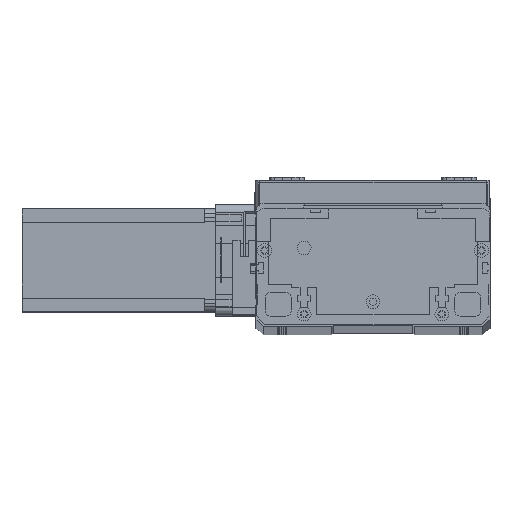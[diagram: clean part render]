
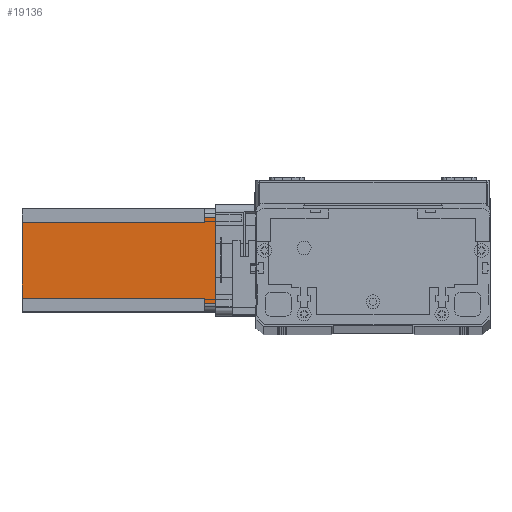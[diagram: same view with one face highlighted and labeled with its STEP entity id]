
A CAD part, top view. The second image highlights one B-rep face of the part: STEP entity #19136.
In plain terms, the highlighted planar face has unit normal (0, 0, 1) as drawn and (0, -1, 0) by its records, which use the part's own axes.
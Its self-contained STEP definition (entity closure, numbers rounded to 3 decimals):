
#304 = LINE ( 'NONE', #26506, #6076 ) ;
#580 = CARTESIAN_POINT ( 'NONE',  ( 52., 0., -6.5 ) ) ;
#823 = CARTESIAN_POINT ( 'NONE',  ( 0., 0., 0. ) ) ;
#1025 = CARTESIAN_POINT ( 'NONE',  ( 52., 0., -112.5 ) ) ;
#1103 = VERTEX_POINT ( 'NONE', #8945 ) ;
#1267 = ORIENTED_EDGE ( 'NONE', *, *, #25435, .T. ) ;
#2211 = DIRECTION ( 'NONE',  ( 0., 0., 1. ) ) ;
#2284 = VECTOR ( 'NONE', #26972, 1000. ) ;
#3008 = VERTEX_POINT ( 'NONE', #21747 ) ;
#3069 = CARTESIAN_POINT ( 'NONE',  ( 55., 0., -112.5 ) ) ;
#3160 = CARTESIAN_POINT ( 'NONE',  ( 5., 0., 0. ) ) ;
#4363 = ORIENTED_EDGE ( 'NONE', *, *, #6335, .T. ) ;
#4912 = ORIENTED_EDGE ( 'NONE', *, *, #16140, .F. ) ;
#5009 = VERTEX_POINT ( 'NONE', #15947 ) ;
#5478 = VECTOR ( 'NONE', #10977, 1000. ) ;
#5852 = VERTEX_POINT ( 'NONE', #18322 ) ;
#5902 = DIRECTION ( 'NONE',  ( 1., 0., 0. ) ) ;
#6076 = VECTOR ( 'NONE', #26585, 1000. ) ;
#6335 = EDGE_CURVE ( 'NONE', #19338, #5852, #7461, .T. ) ;
#6801 = CARTESIAN_POINT ( 'NONE',  ( 0., 0., -112.5 ) ) ;
#7461 = LINE ( 'NONE', #27161, #2284 ) ;
#7849 = EDGE_CURVE ( 'NONE', #10646, #5009, #14991, .T. ) ;
#8108 = ORIENTED_EDGE ( 'NONE', *, *, #11291, .T. ) ;
#8605 = VECTOR ( 'NONE', #2211, 1000. ) ;
#8945 = CARTESIAN_POINT ( 'NONE',  ( 8., 0., -112.5 ) ) ;
#9046 = DIRECTION ( 'NONE',  ( 0., 0., -1. ) ) ;
#10646 = VERTEX_POINT ( 'NONE', #27270 ) ;
#10748 = FACE_OUTER_BOUND ( 'NONE', #11194, .T. ) ;
#10977 = DIRECTION ( 'NONE',  ( 1., 0., 0. ) ) ;
#11194 = EDGE_LOOP ( 'NONE', ( #1267, #18642, #21336, #4363, #25024, #12173, #8108, #4912 ) ) ;
#11291 = EDGE_CURVE ( 'NONE', #1103, #13713, #25980, .T. ) ;
#11368 = DIRECTION ( 'NONE',  ( 0., 0., 1. ) ) ;
#12171 = EDGE_CURVE ( 'NONE', #1103, #3008, #25924, .T. ) ;
#12173 = ORIENTED_EDGE ( 'NONE', *, *, #12171, .F. ) ;
#12334 = LINE ( 'NONE', #15327, #15429 ) ;
#13713 = VERTEX_POINT ( 'NONE', #1025 ) ;
#13862 = VECTOR ( 'NONE', #16008, 1000. ) ;
#14991 = LINE ( 'NONE', #3069, #8605 ) ;
#15327 = CARTESIAN_POINT ( 'NONE',  ( 8., 0., -6.5 ) ) ;
#15429 = VECTOR ( 'NONE', #21295, 1000. ) ;
#15430 = PLANE ( 'NONE',  #20101 ) ;
#15947 = CARTESIAN_POINT ( 'NONE',  ( 55., 0., 0. ) ) ;
#16008 = DIRECTION ( 'NONE',  ( 1., 0., 0. ) ) ;
#16140 = EDGE_CURVE ( 'NONE', #27010, #13713, #304, .T. ) ;
#18322 = CARTESIAN_POINT ( 'NONE',  ( 5., 0., -6.5 ) ) ;
#18642 = ORIENTED_EDGE ( 'NONE', *, *, #7849, .T. ) ;
#18845 = CARTESIAN_POINT ( 'NONE',  ( 0., 0., -112.5 ) ) ;
#19136 = ADVANCED_FACE ( 'NONE', ( #10748 ), #15430, .T. ) ;
#19338 = VERTEX_POINT ( 'NONE', #3160 ) ;
#19437 = CARTESIAN_POINT ( 'NONE',  ( 52., 0., -6.5 ) ) ;
#20101 = AXIS2_PLACEMENT_3D ( 'NONE', #6801, #21856, #9046 ) ;
#20159 = LINE ( 'NONE', #823, #13862 ) ;
#20385 = VECTOR ( 'NONE', #11368, 1000. ) ;
#21032 = EDGE_CURVE ( 'NONE', #19338, #5009, #20159, .T. ) ;
#21129 = VECTOR ( 'NONE', #5902, 1000. ) ;
#21295 = DIRECTION ( 'NONE',  ( -1., 0., 0. ) ) ;
#21336 = ORIENTED_EDGE ( 'NONE', *, *, #21032, .F. ) ;
#21747 = CARTESIAN_POINT ( 'NONE',  ( 8., 0., -6.5 ) ) ;
#21856 = DIRECTION ( 'NONE',  ( 0., -1., 0. ) ) ;
#24046 = CARTESIAN_POINT ( 'NONE',  ( 8., 0., -112.5 ) ) ;
#25024 = ORIENTED_EDGE ( 'NONE', *, *, #26100, .F. ) ;
#25214 = LINE ( 'NONE', #19437, #5478 ) ;
#25435 = EDGE_CURVE ( 'NONE', #27010, #10646, #25214, .T. ) ;
#25924 = LINE ( 'NONE', #24046, #20385 ) ;
#25980 = LINE ( 'NONE', #18845, #21129 ) ;
#26100 = EDGE_CURVE ( 'NONE', #3008, #5852, #12334, .T. ) ;
#26506 = CARTESIAN_POINT ( 'NONE',  ( 52., 0., -112.5 ) ) ;
#26585 = DIRECTION ( 'NONE',  ( 0., 0., -1. ) ) ;
#26972 = DIRECTION ( 'NONE',  ( 0., 0., -1. ) ) ;
#27010 = VERTEX_POINT ( 'NONE', #580 ) ;
#27161 = CARTESIAN_POINT ( 'NONE',  ( 5., 0., -112.5 ) ) ;
#27270 = CARTESIAN_POINT ( 'NONE',  ( 55., 0., -6.5 ) ) ;
